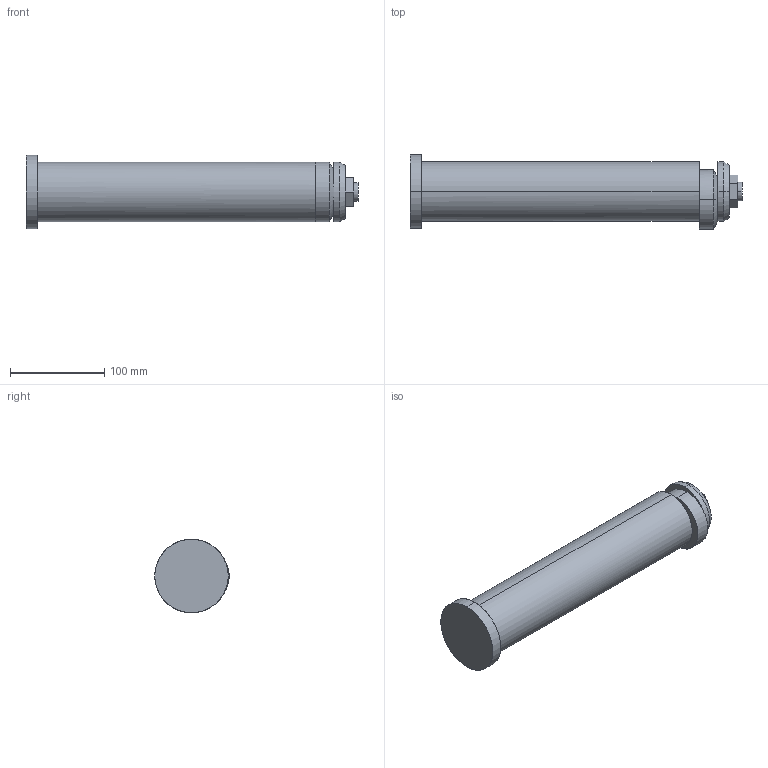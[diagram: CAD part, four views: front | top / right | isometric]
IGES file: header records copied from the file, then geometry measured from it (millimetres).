
Start section: START RECORD GO HERE.
Global section: file name: 395PSF-5.igs; native system: DASSAULT SYSTEMES CATIA V5 R20 - www.3ds.com; preprocessor: CATIA Version 5 Release 20 ; author: Utente; organization: NB04-ASUS; date: 20200409.225028; units: millimetre
Bounding box: 352.5 x 79 x 78 mm (x, y, z)
Surface area: 87312.6 mm2 (no closed solid volume)
Topology: 0 solids, 0 shells, 34 faces, 142 edges, 142 vertices
Faces by surface type: revolution 18, extrusion 16
